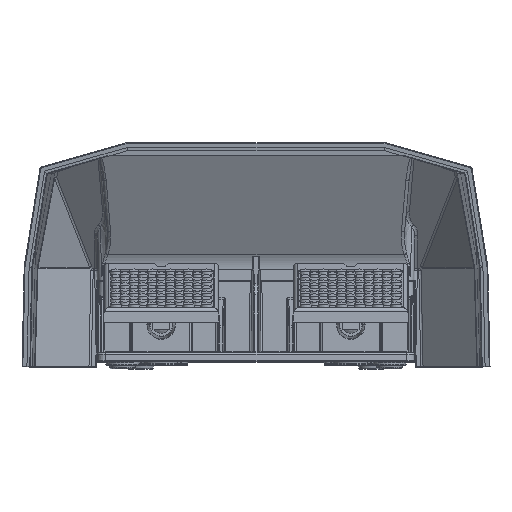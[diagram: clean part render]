
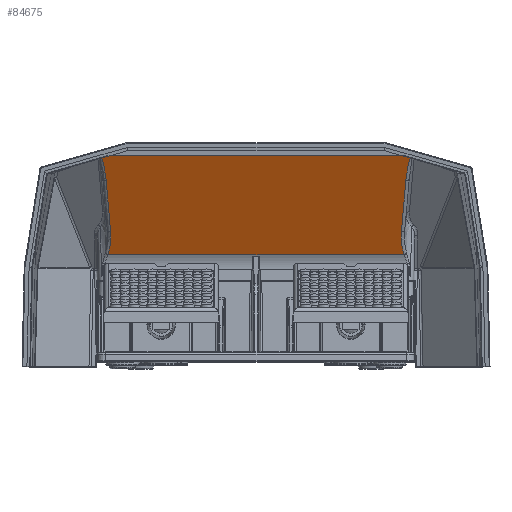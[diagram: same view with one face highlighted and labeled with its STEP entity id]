
A CAD part, top view. The second image highlights one B-rep face of the part: STEP entity #84675.
In plain terms, the highlighted planar face has unit normal (0, -0.469, 0.883).
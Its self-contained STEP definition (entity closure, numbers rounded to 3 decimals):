
#71776=CARTESIAN_POINT('',(-93.645,126.159,
156.092));
#71801=CARTESIAN_POINT('',(-91.05,127.036,
156.558));
#71802=CARTESIAN_POINT('',(-91.483,126.889,
156.48));
#71803=CARTESIAN_POINT('',(-92.348,126.596,
156.324));
#71804=CARTESIAN_POINT('',(-93.213,126.305,
156.17));
#71805=CARTESIAN_POINT('',(-93.645,126.159,
156.092));
#71807=CARTESIAN_POINT('',(-90.062,127.2,
156.645));
#71808=CARTESIAN_POINT('',(-90.132,127.2,
156.645));
#71809=CARTESIAN_POINT('',(-90.27,127.195,
156.642));
#71810=CARTESIAN_POINT('',(-90.471,127.175,
156.631));
#71811=CARTESIAN_POINT('',(-90.67,127.141,
156.613));
#71812=CARTESIAN_POINT('',(-90.863,127.095,
156.589));
#71813=CARTESIAN_POINT('',(-90.988,127.057,
156.569));
#71814=CARTESIAN_POINT('',(-91.05,127.036,
156.558));
#71816=CARTESIAN_POINT('',(0.,127.2,156.645));
#71817=CARTESIAN_POINT('',(-30.021,127.2,
156.645));
#71818=CARTESIAN_POINT('',(-60.041,127.2,
156.645));
#71819=CARTESIAN_POINT('',(-90.062,127.2,
156.645));
#71821=CARTESIAN_POINT('',(90.062,127.2,156.645));
#71822=CARTESIAN_POINT('',(60.041,127.2,156.645));
#71823=CARTESIAN_POINT('',(30.021,127.2,156.645));
#71824=CARTESIAN_POINT('',(0.,127.2,156.645));
#71826=CARTESIAN_POINT('',(91.05,127.036,156.558));
#71827=CARTESIAN_POINT('',(90.988,127.057,156.569));
#71828=CARTESIAN_POINT('',(90.863,127.095,156.589));
#71829=CARTESIAN_POINT('',(90.67,127.141,156.613));
#71830=CARTESIAN_POINT('',(90.471,127.175,156.631));
#71831=CARTESIAN_POINT('',(90.27,127.195,156.642));
#71832=CARTESIAN_POINT('',(90.132,127.2,156.645));
#71833=CARTESIAN_POINT('',(90.062,127.2,156.645));
#71835=CARTESIAN_POINT('',(93.645,126.159,156.092));
#71836=CARTESIAN_POINT('',(93.213,126.305,156.17));
#71837=CARTESIAN_POINT('',(92.348,126.596,156.324));
#71838=CARTESIAN_POINT('',(91.483,126.889,156.48));
#71839=CARTESIAN_POINT('',(91.05,127.036,156.558));
#71841=CARTESIAN_POINT('',(93.645,126.159,156.092));
#71842=CARTESIAN_POINT('',(93.419,125.55,155.769));
#71843=CARTESIAN_POINT('',(93.003,124.27,155.089));
#71844=CARTESIAN_POINT('',(92.456,122.179,153.979));
#71845=CARTESIAN_POINT('',(91.977,119.919,152.779));
#71846=CARTESIAN_POINT('',(91.555,117.485,151.487));
#71847=CARTESIAN_POINT('',(91.194,114.865,150.096));
#71848=CARTESIAN_POINT('',(90.998,112.996,149.104));
#71849=CARTESIAN_POINT('',(90.914,112.03,148.591));
#71851=DIRECTION('',(-0.077,-0.881,-0.468));
#71852=VECTOR('',#71851,35.044);
#71853=CARTESIAN_POINT('',(90.914,112.03,148.591));
#71854=LINE('',#71853,#71852);
#71855=CARTESIAN_POINT('',(88.214,81.17,132.208));
#71856=CARTESIAN_POINT('',(88.053,79.332,131.232));
#71857=CARTESIAN_POINT('',(88.01,75.845,129.381));
#71858=CARTESIAN_POINT('',(88.601,71.195,126.912));
#71859=CARTESIAN_POINT('',(89.369,68.488,125.475));
#71860=CARTESIAN_POINT('',(89.85,67.232,124.808));
#71862=DIRECTION('',(-1.,0.,0.));
#71863=VECTOR('',#71862,179.701);
#71864=CARTESIAN_POINT('',(89.85,67.232,124.808));
#71865=LINE('',#71864,#71863);
#71866=CARTESIAN_POINT('',(-89.85,67.232,
124.808));
#71867=CARTESIAN_POINT('',(-89.369,68.488,
125.475));
#71868=CARTESIAN_POINT('',(-88.601,71.195,
126.912));
#71869=CARTESIAN_POINT('',(-88.01,75.845,
129.381));
#71870=CARTESIAN_POINT('',(-88.053,79.332,
131.232));
#71871=CARTESIAN_POINT('',(-88.214,81.17,
132.208));
#71873=DIRECTION('',(-0.077,0.881,0.468));
#71874=VECTOR('',#71873,35.044);
#71875=CARTESIAN_POINT('',(-88.214,81.17,
132.208));
#71876=LINE('',#71875,#71874);
#71877=CARTESIAN_POINT('',(-90.914,112.03,
148.591));
#71878=CARTESIAN_POINT('',(-90.998,112.995,
149.103));
#71879=CARTESIAN_POINT('',(-91.194,114.862,
150.095));
#71880=CARTESIAN_POINT('',(-91.555,117.481,
151.485));
#71881=CARTESIAN_POINT('',(-91.976,119.914,
152.777));
#71882=CARTESIAN_POINT('',(-92.455,122.175,
153.977));
#71883=CARTESIAN_POINT('',(-93.002,124.267,
155.088));
#71884=CARTESIAN_POINT('',(-93.418,125.549,
155.768));
#71885=CARTESIAN_POINT('',(-93.645,126.159,
156.092));
#72005=CARTESIAN_POINT('',(89.85,67.232,124.808));
#72965=VERTEX_POINT('',#72005);
#72967=VERTEX_POINT('',#71855);
#72970=CARTESIAN_POINT('',(90.914,112.03,148.591));
#72971=VERTEX_POINT('',#72970);
#72976=CARTESIAN_POINT('',(-88.214,81.17,
132.208));
#72977=CARTESIAN_POINT('',(-90.914,112.03,
148.591));
#72978=VERTEX_POINT('',#72976);
#72979=VERTEX_POINT('',#72977);
#72981=VERTEX_POINT('',#71866);
#73011=VERTEX_POINT('',#71776);
#73013=VERTEX_POINT('',#71801);
#73015=VERTEX_POINT('',#71807);
#73018=VERTEX_POINT('',#71816);
#73021=VERTEX_POINT('',#71821);
#73023=VERTEX_POINT('',#71826);
#73025=VERTEX_POINT('',#71835);
#84649=CARTESIAN_POINT('',(-111.11,51.,116.19));
#84650=DIRECTION('',(0.,0.469,-0.883));
#84651=DIRECTION('',(0.,0.883,0.469));
#84652=AXIS2_PLACEMENT_3D('',#84649,#84650,#84651);
#84653=PLANE('',#84652);
#84654=ORIENTED_EDGE('',*,*,#84643,.F.);
#84655=ORIENTED_EDGE('',*,*,#83586,.F.);
#84656=ORIENTED_EDGE('',*,*,#83614,.F.);
#84658=ORIENTED_EDGE('',*,*,#84657,.F.);
#84660=ORIENTED_EDGE('',*,*,#84659,.F.);
#84661=ORIENTED_EDGE('',*,*,#84093,.F.);
#84663=ORIENTED_EDGE('',*,*,#84662,.T.);
#84665=ORIENTED_EDGE('',*,*,#84664,.T.);
#84667=ORIENTED_EDGE('',*,*,#84666,.T.);
#84669=ORIENTED_EDGE('',*,*,#84668,.T.);
#84670=ORIENTED_EDGE('',*,*,#84500,.T.);
#84671=ORIENTED_EDGE('',*,*,#84516,.T.);
#84672=ORIENTED_EDGE('',*,*,#84572,.T.);
#84673=EDGE_LOOP('',(#84654,#84655,#84656,#84658,#84660,#84661,#84663,#84665,
#84667,#84669,#84670,#84671,#84672));
#84674=FACE_OUTER_BOUND('',#84673,.F.);
#84675=ADVANCED_FACE('',(#84674),#84653,.F.);
#71806=B_SPLINE_CURVE_WITH_KNOTS('',3,(#71801,#71802,#71803,#71804,#71805),
.UNSPECIFIED.,.F.,.F.,(4,1,4),(0.,0.5,1.),.UNSPECIFIED.);
#71815=B_SPLINE_CURVE_WITH_KNOTS('',3,(#71807,#71808,#71809,#71810,#71811,
#71812,#71813,#71814),.UNSPECIFIED.,.F.,.F.,(4,1,1,1,1,4),(0.,0.2,0.4,
0.6,0.8,1.),.UNSPECIFIED.);
#71820=B_SPLINE_CURVE_WITH_KNOTS('',3,(#71816,#71817,#71818,#71819),
.UNSPECIFIED.,.F.,.F.,(4,4),(0.,1.),.UNSPECIFIED.);
#71825=B_SPLINE_CURVE_WITH_KNOTS('',3,(#71821,#71822,#71823,#71824),
.UNSPECIFIED.,.F.,.F.,(4,4),(0.,1.),.UNSPECIFIED.);
#71834=B_SPLINE_CURVE_WITH_KNOTS('',3,(#71826,#71827,#71828,#71829,#71830,
#71831,#71832,#71833),.UNSPECIFIED.,.F.,.F.,(4,1,1,1,1,4),(0.,0.2,0.4,
0.6,0.8,1.),.UNSPECIFIED.);
#71840=B_SPLINE_CURVE_WITH_KNOTS('',3,(#71835,#71836,#71837,#71838,#71839),
.UNSPECIFIED.,.F.,.F.,(4,1,4),(0.,0.5,1.),.UNSPECIFIED.);
#71850=B_SPLINE_CURVE_WITH_KNOTS('',3,(#71841,#71842,#71843,#71844,#71845,
#71846,#71847,#71848,#71849),.UNSPECIFIED.,.F.,.F.,(4,1,1,1,1,1,4),(0.,
0.167,0.333,0.5,0.667,0.833,
1.),.UNSPECIFIED.);
#71861=B_SPLINE_CURVE_WITH_KNOTS('',3,(#71855,#71856,#71857,#71858,#71859,
#71860),.UNSPECIFIED.,.F.,.F.,(4,1,1,4),(0.,0.333,
0.667,1.),.UNSPECIFIED.);
#71872=B_SPLINE_CURVE_WITH_KNOTS('',3,(#71866,#71867,#71868,#71869,#71870,
#71871),.UNSPECIFIED.,.F.,.F.,(4,1,1,4),(0.,0.333,
0.667,1.),.UNSPECIFIED.);
#71886=B_SPLINE_CURVE_WITH_KNOTS('',3,(#71877,#71878,#71879,#71880,#71881,
#71882,#71883,#71884,#71885),.UNSPECIFIED.,.F.,.F.,(4,1,1,1,1,1,4),(0.,
0.167,0.333,0.5,0.667,0.833,
1.),.UNSPECIFIED.);
#83586=EDGE_CURVE('',#73015,#73013,#71815,.T.);
#83614=EDGE_CURVE('',#73018,#73015,#71820,.T.);
#84093=EDGE_CURVE('',#73025,#73023,#71840,.T.);
#84500=EDGE_CURVE('',#72981,#72978,#71872,.T.);
#84516=EDGE_CURVE('',#72978,#72979,#71876,.T.);
#84572=EDGE_CURVE('',#72979,#73011,#71886,.T.);
#84643=EDGE_CURVE('',#73013,#73011,#71806,.T.);
#84657=EDGE_CURVE('',#73021,#73018,#71825,.T.);
#84659=EDGE_CURVE('',#73023,#73021,#71834,.T.);
#84662=EDGE_CURVE('',#73025,#72971,#71850,.T.);
#84664=EDGE_CURVE('',#72971,#72967,#71854,.T.);
#84666=EDGE_CURVE('',#72967,#72965,#71861,.T.);
#84668=EDGE_CURVE('',#72965,#72981,#71865,.T.);
